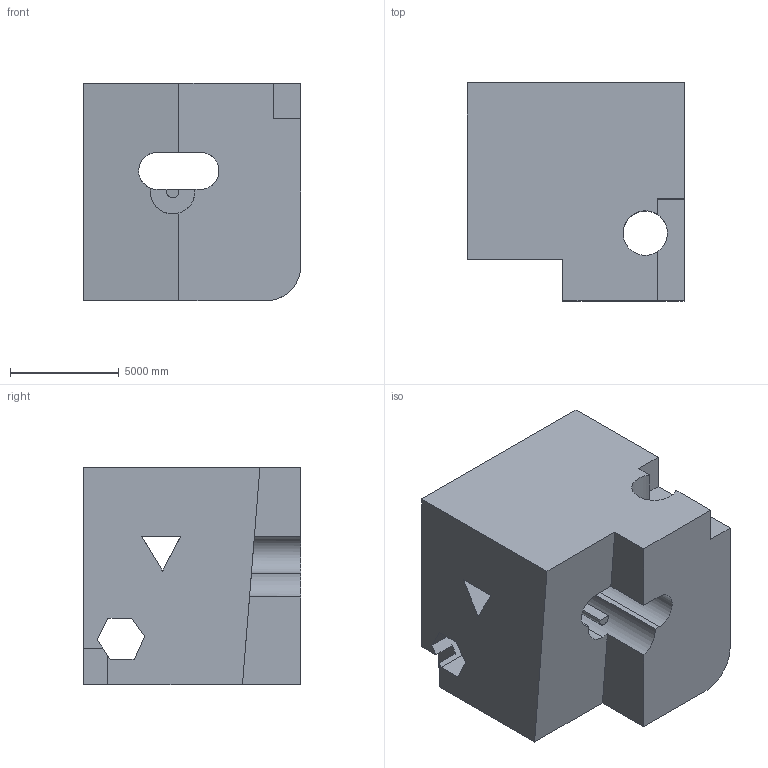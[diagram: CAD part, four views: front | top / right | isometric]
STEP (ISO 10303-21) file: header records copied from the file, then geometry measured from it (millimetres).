
FILE_DESCRIPTION (( 'STEP AP203' ), '1' );
FILE_NAME ('1873.STEP', '2022-08-19T13:52:10', ( 'user' ), ( '' ), 'SwSTEP 2.0', 'SolidWorks 2021', '' );
FILE_SCHEMA (( 'CONFIG_CONTROL_DESIGN' ));
Length unit declared in the file: centimetre
Products named in the file (1): 1873
Bounding box: 10000 x 10000 x 10000 mm (x, y, z)
Volume: 753203141467.8 mm3; surface area: 788166850.3 mm2
Topology: 1 solids, 1 shells, 41 faces, 132 edges, 88 vertices
Faces by surface type: plane 32, cylinder 9
Entity records: 1642 total; most frequent: CARTESIAN_POINT 401, ORIENTED_EDGE 264, DIRECTION 220, EDGE_CURVE 132, LINE 102, VECTOR 102, VERTEX_POINT 88, AXIS2_PLACEMENT_3D 59
